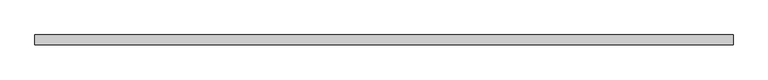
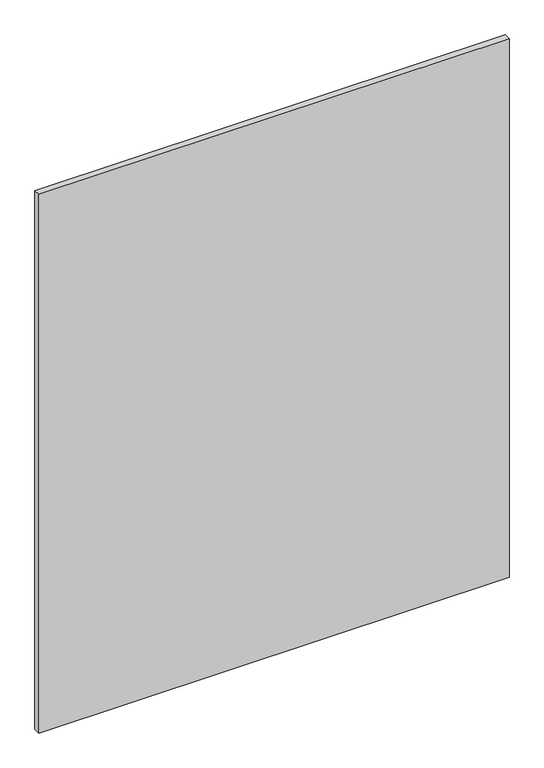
"""IFC4 building model written with IfcOpenShell, lengths in millimetres: plate geometry, 系统嵌板 : 玻璃."""

import ifcopenshell
import ifcopenshell.guid

model = None  # the IFC model being written
_history = None  # IfcOwnerHistory: only IFC2X3 demands one
_inside = {}  # id of a spatial element -> (the spatial element, [elements in it])
_under = {}  # id of a project, library or spatial element -> (it, [spatial elements below it])
_declared = {}  # id of a project -> (the project, [libraries it declares])
_typed = {}  # id of a type object -> (the type object, [elements of that type])
_made_of = {}  # id of a material, layer set ... -> (it, [elements and type objects made of it])


def new_model(schema):
    """Start an empty IFC model of exactly this schema.

    Asked for "IFC4X3", IfcOpenShell would pick the latest addendum, in which some entities
    have other attributes; the version numbers below select the first issue.
    IFC2X3 requires an IfcOwnerHistory on every rooted entity: one is made here for all.
    """
    global model, _history
    if schema == "IFC4X3":
        model = ifcopenshell.file(schema_version=(4, 3, 0, 0))
    else:
        model = ifcopenshell.file(schema=schema)
    _inside.clear()
    _under.clear()
    _declared.clear()
    _typed.clear()
    _made_of.clear()
    _history = None
    if model.schema == "IFC2X3":
        org = make("IfcOrganization", Name="unknown")
        user = make(
            "IfcPersonAndOrganization",
            ThePerson=make("IfcPerson", FamilyName="unknown"),
            TheOrganization=org,
        )
        app = make(
            "IfcApplication",
            ApplicationDeveloper=org,
            Version="unknown",
            ApplicationFullName="unknown",
            ApplicationIdentifier="unknown",
        )
        _history = make(
            "IfcOwnerHistory",
            OwningUser=user,
            OwningApplication=app,
            ChangeAction="ADDED",
            CreationDate=0,
        )
    return model


def make(cls, **values):
    """One entity of the class cls with the attributes given. An attribute that is None is left unset."""
    return model.create_entity(
        cls, **{name: value for name, value in values.items() if value is not None}
    )


def rooted(cls, **values):
    """An entity with a GlobalId (a new one), such as an element, a storey or a relation."""
    return make(cls, GlobalId=ifcopenshell.guid.new(), OwnerHistory=_history, **values)


def si_unit(unit_type, name, prefix=None):
    """IfcSIUnit, for example si_unit("LENGTHUNIT", "METRE", prefix="MILLI")."""
    return make("IfcSIUnit", UnitType=unit_type, Prefix=prefix, Name=name)


def assignment(units):
    """IfcUnitAssignment: the units of a project."""
    return None if units is None else make("IfcUnitAssignment", Units=units)


def point(xyz):
    """IfcCartesianPoint."""
    return None if xyz is None else make("IfcCartesianPoint", Coordinates=xyz)


def direction(xyz):
    """IfcDirection."""
    return None if xyz is None else make("IfcDirection", DirectionRatios=xyz)


def frame(location, z_axis=None, x_axis=None):
    """IfcAxis2Placement3D, a coordinate frame: its origin and axes. An axis left out is left unset."""
    return make(
        "IfcAxis2Placement3D",
        Location=point(location),
        Axis=direction(z_axis),
        RefDirection=direction(x_axis),
    )


def origin():
    """The frame at (0, 0, 0) with its axes left unset."""
    return frame((0.0, 0.0, 0.0))


def origin_with_axes():
    """The frame at (0, 0, 0) with the z axis (0, 0, 1) and the x axis (1, 0, 0) written out."""
    return frame((0.0, 0.0, 0.0), z_axis=(0.0, 0.0, 1.0), x_axis=(1.0, 0.0, 0.0))


def place(relative_to, where):
    """IfcLocalPlacement: puts the frame where relative to a parent placement (None: the world)."""
    return make(
        "IfcLocalPlacement", PlacementRelTo=relative_to, RelativePlacement=where
    )


def context(
    kind, dimensions, precision=None, world=None, true_north=None, identifier=None
):
    """IfcGeometricRepresentationContext, for example the 3D "Model" context."""
    return make(
        "IfcGeometricRepresentationContext",
        ContextIdentifier=identifier,
        ContextType=kind,
        CoordinateSpaceDimension=dimensions,
        Precision=precision,
        WorldCoordinateSystem=world,
        TrueNorth=true_north,
    )


def project(units=None, contexts=None):
    """IfcProject with its units and contexts."""
    return rooted(
        "IfcProject",
        Name="project",
        RepresentationContexts=contexts,
        UnitsInContext=assignment(units),
    )


def spatial(cls, under=None, at=None, **own):
    """A site, building, storey or space (cls), placed at a placement, below another one or the project."""
    s = rooted(cls, ObjectPlacement=at, **own)
    if under is not None:
        _under.setdefault(under.id(), (under, []))[1].append(s)
    return s


def polyline(points):
    """IfcPolyline through the points."""
    return make("IfcPolyline", Points=[point(p) for p in points])


def outline(outer, holes=None, kind="AREA"):
    """IfcArbitraryClosedProfileDef: a profile drawn as a closed curve; with holes, ...WithVoids."""
    if holes is None:
        return make("IfcArbitraryClosedProfileDef", ProfileType=kind, OuterCurve=outer)
    return make(
        "IfcArbitraryProfileDefWithVoids",
        ProfileType=kind,
        OuterCurve=outer,
        InnerCurves=holes,
    )


def extrude(swept, where, along, depth):
    """IfcExtrudedAreaSolid: the profile swept, set in the frame where, extruded along a direction by depth."""
    return make(
        "IfcExtrudedAreaSolid",
        SweptArea=swept,
        Position=where,
        ExtrudedDirection=direction(along),
        Depth=depth,
    )


def shape(context_of_items, identifier, shape_type, items):
    """IfcShapeRepresentation: the items that make up one representation, for example the "Body"."""
    return make(
        "IfcShapeRepresentation",
        ContextOfItems=context_of_items,
        RepresentationIdentifier=identifier,
        RepresentationType=shape_type,
        Items=items,
    )


def source(mapping_origin, context_of_items, identifier, shape_type, items):
    """IfcRepresentationMap: a shape defined once, which mapped items show again and again."""
    return make(
        "IfcRepresentationMap",
        MappingOrigin=mapping_origin,
        MappedRepresentation=shape(context_of_items, identifier, shape_type, items),
    )


def transform(
    local_origin,
    x_axis=None,
    y_axis=None,
    z_axis=None,
    scale=None,
    scale2=None,
    scale3=None,
    uniform=True,
):
    """IfcCartesianTransformationOperator3D, or its non-uniform kind. x_axis, y_axis, z_axis: its Axis1, 2, 3."""
    if uniform:
        return make(
            "IfcCartesianTransformationOperator3D",
            Axis1=direction(x_axis),
            Axis2=direction(y_axis),
            LocalOrigin=point(local_origin),
            Scale=scale,
            Axis3=direction(z_axis),
        )
    return make(
        "IfcCartesianTransformationOperator3DnonUniform",
        Axis1=direction(x_axis),
        Axis2=direction(y_axis),
        LocalOrigin=point(local_origin),
        Scale=scale,
        Axis3=direction(z_axis),
        Scale2=scale2,
        Scale3=scale3,
    )


def mapped(mapping_source, mapping_target):
    """IfcMappedItem: shows the shape of a source again, moved by a transform."""
    return make(
        "IfcMappedItem", MappingSource=mapping_source, MappingTarget=mapping_target
    )


def made_of(thing, what):
    """Note that an element or type object is made of a material, layer set ...; save() writes the relation."""
    if what is not None:
        _made_of.setdefault(what.id(), (what, []))[1].append(thing)
    return thing


def element(
    cls,
    number,
    at=None,
    inside=None,
    cuts=None,
    type_object=None,
    material=None,
    context=None,
    identifier="Body",
    shape_type=None,
    held_by="IfcProductDefinitionShape",
    body=None,
    shapes=None,
    **own,
):
    """One element of the class cls, such as IfcWall. Its Tag is "e" and its number.

    at: its placement. inside: the storey or other place that contains it. cuts: it is an
    opening in that element (IfcRelVoidsElement). A single representation is given by context,
    identifier, shape_type and body (its items); several are given by shapes. held_by: the class
    of the entity that holds the representations. save() writes the other relations.
    """
    e = rooted(cls, Tag="e%d" % number, ObjectPlacement=at, **own)
    if body is not None:
        shapes = [shape(context, identifier, shape_type, body)]
    if shapes is not None:
        e.Representation = make(held_by, Representations=shapes)
    if inside is not None:
        _inside.setdefault(inside.id(), (inside, []))[1].append(e)
    if cuts is not None:
        rooted(
            "IfcRelVoidsElement", RelatingBuildingElement=cuts, RelatedOpeningElement=e
        )
    if type_object is not None:
        _typed.setdefault(type_object.id(), (type_object, []))[1].append(e)
    return made_of(e, material)


def aggregate(whole, parts):
    """IfcRelAggregates: a whole, such as a stair, and the parts it consists of."""
    return rooted("IfcRelAggregates", RelatingObject=whole, RelatedObjects=parts)


def save(model, path):
    """Write the relations noted so far, then the file.

    IfcRelAggregates (storeys below a building ...), IfcRelContainedInSpatialStructure (elements
    in a storey), IfcRelDefinesByType, IfcRelAssociatesMaterial and IfcRelDeclares: one each for
    every whole, place, type object, material and project.
    """
    for whole, parts in _under.values():
        aggregate(whole, parts)
    for where, things in _inside.values():
        rooted(
            "IfcRelContainedInSpatialStructure",
            RelatedElements=things,
            RelatingStructure=where,
        )
    for kind, things in _typed.values():
        rooted("IfcRelDefinesByType", RelatedObjects=things, RelatingType=kind)
    for what, things in _made_of.values():
        rooted("IfcRelAssociatesMaterial", RelatedObjects=things, RelatingMaterial=what)
    for by, libraries in _declared.values():
        rooted("IfcRelDeclares", RelatingContext=by, RelatedDefinitions=libraries)
    model.write(path)


def plate_e43d0596(model_context):
    return source(origin(), model_context, "Body", "SweptSolid", [
        extrude(outline(polyline([(877.5000032, -12.5), (-877.5000032, -12.5), (-877.5000032, 12.5), (877.5000032, 12.5), (877.5000032, -12.5)])), origin_with_axes(), (0.0, 0.0, 1.0), 2125.0),
    ])


if __name__ == "__main__":
    model = new_model("IFC4")
    model_context = context("Model", 3, world=origin())
    ifc_project = project(units=[si_unit("LENGTHUNIT", "METRE", prefix="MILLI")], contexts=[model_context])
    site = spatial("IfcSite", under=ifc_project)
    building = spatial("IfcBuilding", under=site)
    placement = place(None, origin())
    plate_shape = plate_e43d0596(model_context)
    element("IfcPlate", 1, ObjectType="系统嵌板 : 玻璃", at=placement, inside=building, context=model_context, shape_type="MappedRepresentation", body=[
        mapped(plate_shape, transform((0.0, 0.0, 0.0), x_axis=(1.0, 0.0, 0.0), y_axis=(0.0, 1.0, 0.0), z_axis=(0.0, 0.0, 1.0))),
    ])
    save(model, "model.ifc")
